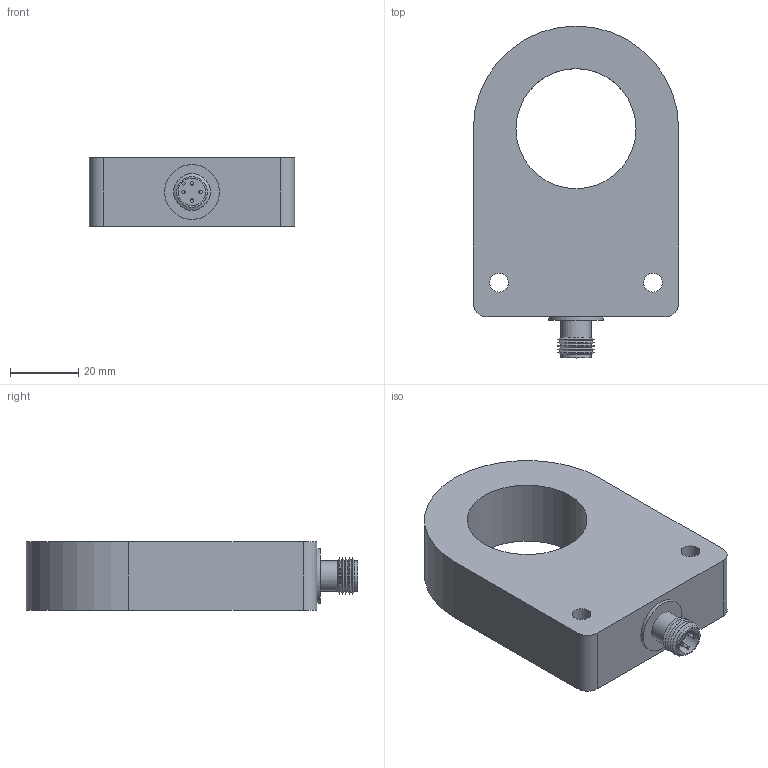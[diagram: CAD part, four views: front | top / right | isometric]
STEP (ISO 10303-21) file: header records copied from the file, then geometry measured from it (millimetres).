
FILE_DESCRIPTION(('FreeCAD Model'),'2;1');
FILE_NAME('Open CASCADE Shape Model','2021-12-17T14:31:06',( 'Thomas Reinhold'),('Eickmann Elektronik GmbH'), 'Open CASCADE STEP processor 7.4','FreeCAD','Unknown');
FILE_SCHEMA(('AUTOMOTIVE_DESIGN { 1 0 10303 214 1 1 1 1 }'));
Length unit declared in the file: millimetre
Products named in the file (3): Unbenannt; Body; Anschluss
Assembly tree (2 placements, depth 2):
  Unbenannt
    Body
    Anschluss
Bounding box: 60 x 97 x 20 mm (x, y, z)
Volume: 74567.2 mm3; surface area: 16627.6 mm2
Topology: 2 solids, 2 shells, 45 faces, 86 edges, 51 vertices
Faces by surface type: plane 18, cylinder 17, cone 10
Full cylindrical faces by diameter (mm): 1 x4, 5.5 x2, 9 x2, 16 x1, 35.1 x1
Entity records: 2344 total; most frequent: DIRECTION 393, CARTESIAN_POINT 381, LINE 183, VECTOR 183, ORIENTED_EDGE 176, PCURVE 172, DEFINITIONAL_REPRESENTATION 172, AXIS2_PLACEMENT_3D 91
